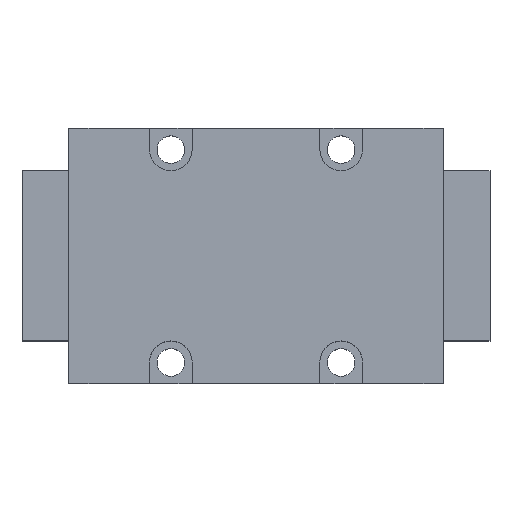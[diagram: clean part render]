
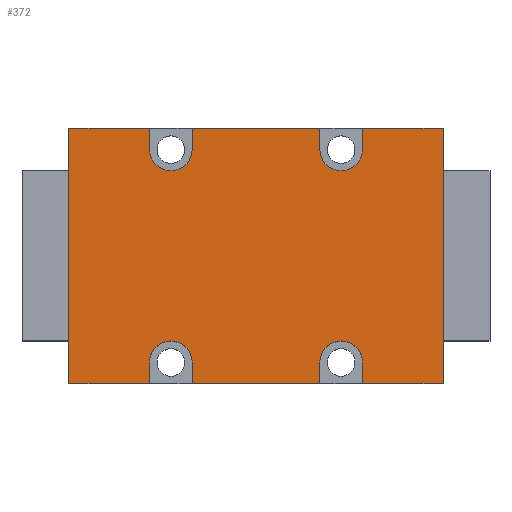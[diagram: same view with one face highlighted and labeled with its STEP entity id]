
A CAD part, top view. The second image highlights one B-rep face of the part: STEP entity #372.
In plain terms, the highlighted planar face has unit normal (0, 0, 1).
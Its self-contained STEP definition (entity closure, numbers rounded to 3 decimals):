
#234=FACE_OUTER_BOUND('',#1700,.T.);
#372=ADVANCED_FACE('',(#234),#622,.T.);
#622=PLANE('',#4118);
#779=LINE('',#5708,#1095);
#790=LINE('',#5754,#1106);
#798=LINE('',#5783,#1114);
#799=LINE('',#5784,#1115);
#803=LINE('',#5792,#1119);
#807=LINE('',#5801,#1123);
#808=LINE('',#5802,#1124);
#812=LINE('',#5810,#1128);
#814=LINE('',#5814,#1130);
#815=LINE('',#5816,#1131);
#816=LINE('',#5820,#1132);
#817=LINE('',#5821,#1133);
#818=LINE('',#5825,#1134);
#819=LINE('',#5826,#1135);
#820=LINE('',#5830,#1136);
#821=LINE('',#5831,#1137);
#1095=VECTOR('',#4539,1.);
#1106=VECTOR('',#4576,1.);
#1114=VECTOR('',#4598,1.);
#1115=VECTOR('',#4599,1.);
#1119=VECTOR('',#4603,1.);
#1123=VECTOR('',#4609,1.);
#1124=VECTOR('',#4610,1.);
#1128=VECTOR('',#4614,1.);
#1130=VECTOR('',#4618,1.);
#1131=VECTOR('',#4619,1.);
#1132=VECTOR('',#4622,1.);
#1133=VECTOR('',#4623,1.);
#1134=VECTOR('',#4626,1.);
#1135=VECTOR('',#4627,1.);
#1136=VECTOR('',#4630,1.);
#1137=VECTOR('',#4631,1.);
#1700=EDGE_LOOP('',(#2149,#2150,#2151,#2152,#2153,#2154,#2155,#2156,#2157,
#2158,#2159,#2160,#2161,#2162,#2163,#2164,#2165,#2166,#2167,#2168));
#2149=ORIENTED_EDGE('',*,*,#3492,.F.);
#2150=ORIENTED_EDGE('',*,*,#3481,.T.);
#2151=ORIENTED_EDGE('',*,*,#3493,.F.);
#2152=ORIENTED_EDGE('',*,*,#3494,.F.);
#2153=ORIENTED_EDGE('',*,*,#3495,.F.);
#2154=ORIENTED_EDGE('',*,*,#3477,.T.);
#2155=ORIENTED_EDGE('',*,*,#3462,.T.);
#2156=ORIENTED_EDGE('',*,*,#3485,.T.);
#2157=ORIENTED_EDGE('',*,*,#3496,.F.);
#2158=ORIENTED_EDGE('',*,*,#3497,.F.);
#2159=ORIENTED_EDGE('',*,*,#3498,.F.);
#2160=ORIENTED_EDGE('',*,*,#3490,.T.);
#2161=ORIENTED_EDGE('',*,*,#3499,.F.);
#2162=ORIENTED_EDGE('',*,*,#3500,.F.);
#2163=ORIENTED_EDGE('',*,*,#3501,.F.);
#2164=ORIENTED_EDGE('',*,*,#3486,.T.);
#2165=ORIENTED_EDGE('',*,*,#3439,.T.);
#2166=ORIENTED_EDGE('',*,*,#3476,.T.);
#2167=ORIENTED_EDGE('',*,*,#3502,.F.);
#2168=ORIENTED_EDGE('',*,*,#3503,.F.);
#3063=VERTEX_POINT('',#5707);
#3064=VERTEX_POINT('',#5709);
#3085=VERTEX_POINT('',#5753);
#3086=VERTEX_POINT('',#5755);
#3099=VERTEX_POINT('',#5782);
#3100=VERTEX_POINT('',#5785);
#3103=VERTEX_POINT('',#5791);
#3104=VERTEX_POINT('',#5793);
#3107=VERTEX_POINT('',#5800);
#3108=VERTEX_POINT('',#5803);
#3111=VERTEX_POINT('',#5809);
#3112=VERTEX_POINT('',#5811);
#3113=VERTEX_POINT('',#5815);
#3114=VERTEX_POINT('',#5817);
#3115=VERTEX_POINT('',#5819);
#3116=VERTEX_POINT('',#5822);
#3117=VERTEX_POINT('',#5824);
#3118=VERTEX_POINT('',#5827);
#3119=VERTEX_POINT('',#5829);
#3120=VERTEX_POINT('',#5832);
#3439=EDGE_CURVE('',#3064,#3063,#779,.T.);
#3462=EDGE_CURVE('',#3086,#3085,#790,.T.);
#3476=EDGE_CURVE('',#3063,#3099,#798,.T.);
#3477=EDGE_CURVE('',#3100,#3086,#799,.T.);
#3481=EDGE_CURVE('',#3104,#3103,#803,.T.);
#3485=EDGE_CURVE('',#3085,#3107,#807,.T.);
#3486=EDGE_CURVE('',#3108,#3064,#808,.T.);
#3490=EDGE_CURVE('',#3112,#3111,#812,.T.);
#3492=EDGE_CURVE('',#3104,#3113,#814,.T.);
#3493=EDGE_CURVE('',#3114,#3103,#815,.T.);
#3494=EDGE_CURVE('',#3115,#3114,#3936,.T.);
#3495=EDGE_CURVE('',#3100,#3115,#816,.T.);
#3496=EDGE_CURVE('',#3116,#3107,#817,.T.);
#3497=EDGE_CURVE('',#3117,#3116,#3937,.T.);
#3498=EDGE_CURVE('',#3112,#3117,#818,.T.);
#3499=EDGE_CURVE('',#3118,#3111,#819,.T.);
#3500=EDGE_CURVE('',#3119,#3118,#3938,.T.);
#3501=EDGE_CURVE('',#3108,#3119,#820,.T.);
#3502=EDGE_CURVE('',#3120,#3099,#821,.T.);
#3503=EDGE_CURVE('',#3113,#3120,#3939,.T.);
#3936=CIRCLE('',#4114,10.);
#3937=CIRCLE('',#4115,10.);
#3938=CIRCLE('',#4116,10.);
#3939=CIRCLE('',#4117,10.);
#4114=AXIS2_PLACEMENT_3D('',#5818,#4620,#4621);
#4115=AXIS2_PLACEMENT_3D('',#5823,#4624,#4625);
#4116=AXIS2_PLACEMENT_3D('',#5828,#4628,#4629);
#4117=AXIS2_PLACEMENT_3D('',#5833,#4632,#4633);
#4118=AXIS2_PLACEMENT_3D('',#5834,#4634,#4635);
#4539=DIRECTION('',(0.,-1.,0.));
#4576=DIRECTION('',(0.,1.,0.));
#4598=DIRECTION('',(1.,0.,0.));
#4599=DIRECTION('',(1.,0.,0.));
#4603=DIRECTION('',(1.,0.,0.));
#4609=DIRECTION('',(-1.,0.,0.));
#4610=DIRECTION('',(-1.,0.,0.));
#4614=DIRECTION('',(-1.,0.,0.));
#4618=DIRECTION('',(0.,1.,0.));
#4619=DIRECTION('',(0.,-1.,0.));
#4620=DIRECTION('',(0.,0.,1.));
#4621=DIRECTION('',(0.,-1.,0.));
#4622=DIRECTION('',(0.,1.,0.));
#4623=DIRECTION('',(0.,1.,0.));
#4624=DIRECTION('',(0.,0.,1.));
#4625=DIRECTION('',(0.,1.,0.));
#4626=DIRECTION('',(0.,-1.,0.));
#4627=DIRECTION('',(0.,1.,0.));
#4628=DIRECTION('',(0.,0.,1.));
#4629=DIRECTION('',(0.,1.,0.));
#4630=DIRECTION('',(0.,-1.,0.));
#4631=DIRECTION('',(0.,-1.,0.));
#4632=DIRECTION('',(0.,0.,1.));
#4633=DIRECTION('',(0.,-1.,0.));
#4634=DIRECTION('',(0.,0.,1.));
#4635=DIRECTION('',(1.,0.,0.));
#5707=CARTESIAN_POINT('',(-88.,-60.,94.));
#5708=CARTESIAN_POINT('',(-88.,60.,94.));
#5709=CARTESIAN_POINT('',(-88.,60.,94.));
#5753=CARTESIAN_POINT('',(88.,60.,94.));
#5754=CARTESIAN_POINT('',(88.,-60.,94.));
#5755=CARTESIAN_POINT('',(88.,-60.,94.));
#5782=CARTESIAN_POINT('',(-50.,-60.,94.));
#5783=CARTESIAN_POINT('',(-88.,-60.,94.));
#5784=CARTESIAN_POINT('',(-88.,-60.,94.));
#5785=CARTESIAN_POINT('',(50.,-60.,94.));
#5791=CARTESIAN_POINT('',(30.,-60.,94.));
#5792=CARTESIAN_POINT('',(-88.,-60.,94.));
#5793=CARTESIAN_POINT('',(-30.,-60.,94.));
#5800=CARTESIAN_POINT('',(50.,60.,94.));
#5801=CARTESIAN_POINT('',(88.,60.,94.));
#5802=CARTESIAN_POINT('',(88.,60.,94.));
#5803=CARTESIAN_POINT('',(-50.,60.,94.));
#5809=CARTESIAN_POINT('',(-30.,60.,94.));
#5810=CARTESIAN_POINT('',(88.,60.,94.));
#5811=CARTESIAN_POINT('',(30.,60.,94.));
#5814=CARTESIAN_POINT('',(-30.,-60.,94.));
#5815=CARTESIAN_POINT('',(-30.,-50.,94.));
#5816=CARTESIAN_POINT('',(30.,-50.,94.));
#5817=CARTESIAN_POINT('',(30.,-50.,94.));
#5818=CARTESIAN_POINT('',(40.,-50.,94.));
#5819=CARTESIAN_POINT('',(50.,-50.,94.));
#5820=CARTESIAN_POINT('',(50.,-60.,94.));
#5821=CARTESIAN_POINT('',(50.,50.,94.));
#5822=CARTESIAN_POINT('',(50.,50.,94.));
#5823=CARTESIAN_POINT('',(40.,50.,94.));
#5824=CARTESIAN_POINT('',(30.,50.,94.));
#5825=CARTESIAN_POINT('',(30.,60.,94.));
#5826=CARTESIAN_POINT('',(-30.,50.,94.));
#5827=CARTESIAN_POINT('',(-30.,50.,94.));
#5828=CARTESIAN_POINT('',(-40.,50.,94.));
#5829=CARTESIAN_POINT('',(-50.,50.,94.));
#5830=CARTESIAN_POINT('',(-50.,60.,94.));
#5831=CARTESIAN_POINT('',(-50.,-50.,94.));
#5832=CARTESIAN_POINT('',(-50.,-50.,94.));
#5833=CARTESIAN_POINT('',(-40.,-50.,94.));
#5834=CARTESIAN_POINT('',(0.,0.,94.));
